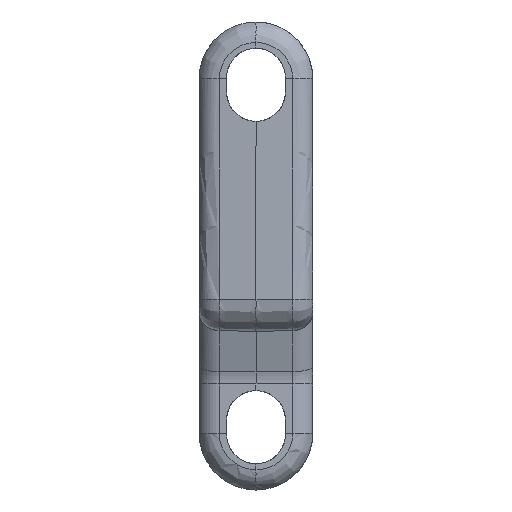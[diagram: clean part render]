
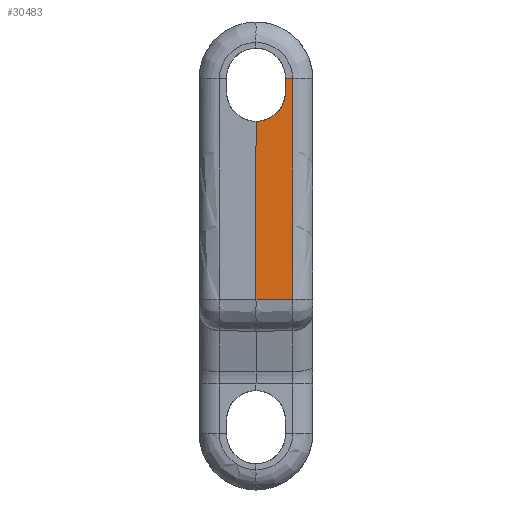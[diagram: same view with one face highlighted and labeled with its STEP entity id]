
A CAD part, left-side view. The second image highlights one B-rep face of the part: STEP entity #30483.
In plain terms, the highlighted planar face has unit normal (-1, -0.018, 0).
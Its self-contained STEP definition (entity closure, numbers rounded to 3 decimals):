
#3237=DIRECTION('',(0.,0.,-1.));
#3238=VECTOR('',#3237,1.85);
#3239=CARTESIAN_POINT('',(-75.968,-4.15,25.));
#3240=LINE('',#3239,#3238);
#3241=DIRECTION('',(-0.017,1.,0.));
#3242=VECTOR('',#3241,1.022);
#3243=CARTESIAN_POINT('',(-75.95,-5.172,25.));
#3244=LINE('',#3243,#3242);
#3245=DIRECTION('',(0.,0.,-1.));
#3246=VECTOR('',#3245,31.12);
#3247=CARTESIAN_POINT('',(-75.95,-5.172,25.));
#3248=LINE('',#3247,#3246);
#3249=DIRECTION('',(0.,0.,1.));
#3250=VECTOR('',#3249,25.12);
#3251=CARTESIAN_POINT('',(-76.04,0.,-6.12));
#3252=LINE('',#3251,#3250);
#3253=CARTESIAN_POINT('',(-75.968,-4.15,23.15));
#3254=CARTESIAN_POINT('',(-75.968,-4.15,22.804));
#3255=CARTESIAN_POINT('',(-75.969,-4.068,
22.194));
#3256=CARTESIAN_POINT('',(-75.975,-3.711,
21.168));
#3257=CARTESIAN_POINT('',(-75.988,-2.993,
20.157));
#3258=CARTESIAN_POINT('',(-76.005,-1.982,
19.439));
#3259=CARTESIAN_POINT('',(-76.023,-0.956,
19.082));
#3260=CARTESIAN_POINT('',(-76.034,-0.346,19.));
#3261=CARTESIAN_POINT('',(-76.04,0.,19.));
#3287=CARTESIAN_POINT('',(-75.95,-5.172,25.));
#3309=CARTESIAN_POINT('',(-75.95,-5.172,-6.12));
#3316=DIRECTION('',(0.017,-1.,0.));
#3317=VECTOR('',#3316,5.173);
#3318=CARTESIAN_POINT('',(-76.04,0.,-6.12));
#3319=LINE('',#3318,#3317);
#20918=CARTESIAN_POINT('',(-75.968,-4.15,23.15));
#20920=VERTEX_POINT('',#20918);
#21260=VERTEX_POINT('',#3309);
#21265=VERTEX_POINT('',#3287);
#21452=CARTESIAN_POINT('',(-76.04,0.,-6.12));
#21453=VERTEX_POINT('',#21452);
#23128=CARTESIAN_POINT('',(-75.968,-4.15,25.));
#23129=VERTEX_POINT('',#23128);
#23130=VERTEX_POINT('',#3261);
#30467=CARTESIAN_POINT('',(-75.995,-2.583,9.44));
#30468=DIRECTION('',(1.,0.017,0.));
#30469=DIRECTION('',(-0.017,1.,0.));
#30470=AXIS2_PLACEMENT_3D('',#30467,#30468,#30469);
#30471=PLANE('',#30470);
#30472=ORIENTED_EDGE('',*,*,#29585,.F.);
#30473=ORIENTED_EDGE('',*,*,#29572,.F.);
#30475=ORIENTED_EDGE('',*,*,#30474,.T.);
#30477=ORIENTED_EDGE('',*,*,#30476,.F.);
#30479=ORIENTED_EDGE('',*,*,#30478,.T.);
#30480=ORIENTED_EDGE('',*,*,#30263,.F.);
#30481=EDGE_LOOP('',(#30472,#30473,#30475,#30477,#30479,#30480));
#30482=FACE_OUTER_BOUND('',#30481,.F.);
#3262=B_SPLINE_CURVE_WITH_KNOTS('',3,(#3253,#3254,#3255,#3256,#3257,#3258,#3259,
#3260,#3261),.UNSPECIFIED.,.F.,.F.,(4,1,1,1,1,1,4),(0.,0.125,0.25,0.5,
0.75,0.875,1.),.UNSPECIFIED.);
#29572=EDGE_CURVE('',#21265,#23129,#3244,.T.);
#29585=EDGE_CURVE('',#23129,#20920,#3240,.T.);
#30263=EDGE_CURVE('',#20920,#23130,#3262,.T.);
#30474=EDGE_CURVE('',#21265,#21260,#3248,.T.);
#30476=EDGE_CURVE('',#21453,#21260,#3319,.T.);
#30478=EDGE_CURVE('',#21453,#23130,#3252,.T.);
#30483=ADVANCED_FACE('',(#30482),#30471,.F.);
